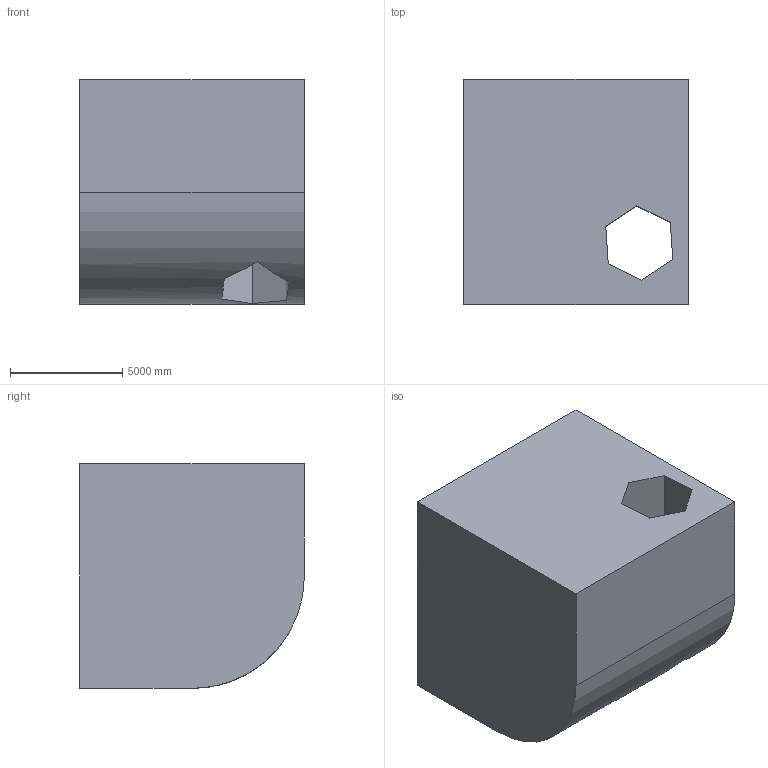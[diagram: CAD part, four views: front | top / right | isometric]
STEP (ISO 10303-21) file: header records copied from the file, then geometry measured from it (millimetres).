
FILE_DESCRIPTION (( 'STEP AP203' ), '1' );
FILE_NAME ('1076.STEP', '2022-08-18T12:39:56', ( 'user' ), ( '' ), 'SwSTEP 2.0', 'SolidWorks 2021', '' );
FILE_SCHEMA (( 'CONFIG_CONTROL_DESIGN' ));
Length unit declared in the file: centimetre
Products named in the file (1): 1076
Bounding box: 10000 x 10000 x 10000 mm (x, y, z)
Volume: 879348882855.8 mm3; surface area: 644992144.6 mm2
Topology: 1 solids, 1 shells, 13 faces, 33 edges, 22 vertices
Faces by surface type: plane 12, cylinder 1
Entity records: 470 total; most frequent: CARTESIAN_POINT 87, ORIENTED_EDGE 66, DIRECTION 57, EDGE_CURVE 33, VECTOR 25, LINE 25, VERTEX_POINT 22, AXIS2_PLACEMENT_3D 16
